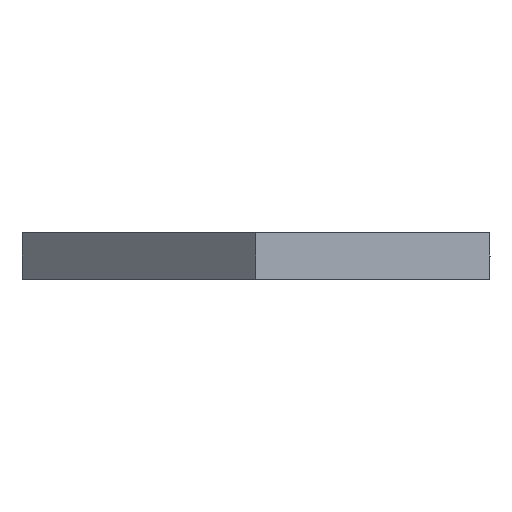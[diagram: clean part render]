
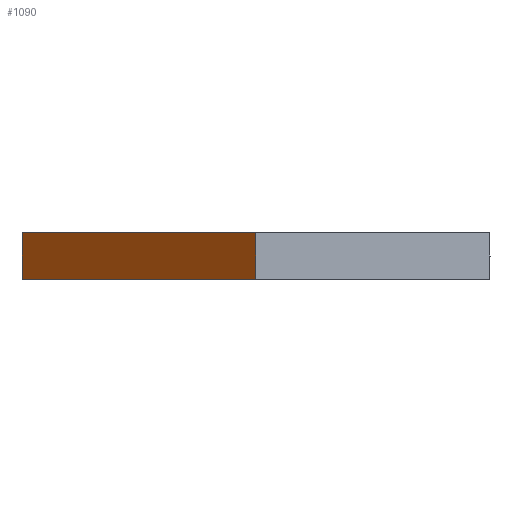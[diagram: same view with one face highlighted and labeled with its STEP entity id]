
A CAD part, left-side view. The second image highlights one B-rep face of the part: STEP entity #1090.
In plain terms, the highlighted planar face has unit normal (-0.707, 0.707, 0).
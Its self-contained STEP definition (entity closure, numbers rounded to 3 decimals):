
#216 = EDGE_LOOP ( 'NONE', ( #998, #1003, #946, #971 ) ) ;
#373 = VERTEX_POINT ( 'NONE', #1266 ) ;
#381 = VERTEX_POINT ( 'NONE', #1256 ) ;
#383 = VERTEX_POINT ( 'NONE', #1228 ) ;
#396 = VERTEX_POINT ( 'NONE', #1309 ) ;
#591 = FACE_OUTER_BOUND ( 'NONE', #216, .T. ) ;
#696 = LINE ( 'NONE', #1729, #720 ) ;
#720 = VECTOR ( 'NONE', #1731, 1000. ) ;
#749 = VECTOR ( 'NONE', #1814, 1000. ) ;
#760 = LINE ( 'NONE', #1792, #771 ) ;
#768 = LINE ( 'NONE', #1765, #778 ) ;
#771 = VECTOR ( 'NONE', #1795, 1000. ) ;
#778 = VECTOR ( 'NONE', #1766, 1000. ) ;
#782 = LINE ( 'NONE', #1813, #749 ) ;
#946 = ORIENTED_EDGE ( 'NONE', *, *, #2056, .F. ) ;
#971 = ORIENTED_EDGE ( 'NONE', *, *, #2035, .T. ) ;
#998 = ORIENTED_EDGE ( 'NONE', *, *, #2015, .T. ) ;
#1003 = ORIENTED_EDGE ( 'NONE', *, *, #2045, .F. ) ;
#1090 = ADVANCED_FACE ( 'NONE', ( #591 ), #1480, .F. ) ;
#1228 = CARTESIAN_POINT ( 'NONE',  ( -161.11, 0., 0. ) ) ;
#1256 = CARTESIAN_POINT ( 'NONE',  ( -161.11, 0., 2. ) ) ;
#1266 = CARTESIAN_POINT ( 'NONE',  ( -151.11, 10., 2. ) ) ;
#1309 = CARTESIAN_POINT ( 'NONE',  ( -151.11, 10., 0. ) ) ;
#1480 = PLANE ( 'NONE',  #2207 ) ;
#1492 = CARTESIAN_POINT ( 'NONE',  ( -161.11, 0., 2. ) ) ;
#1496 = DIRECTION ( 'NONE',  ( 0.707, -0.707, 0. ) ) ;
#1504 = DIRECTION ( 'NONE',  ( 0.707, 0.707, 0. ) ) ;
#1729 = CARTESIAN_POINT ( 'NONE',  ( -161.11, 0., 0. ) ) ;
#1731 = DIRECTION ( 'NONE',  ( -0.707, -0.707, 0. ) ) ;
#1765 = CARTESIAN_POINT ( 'NONE',  ( -151.11, 10., 2. ) ) ;
#1766 = DIRECTION ( 'NONE',  ( 0., 0., -1. ) ) ;
#1792 = CARTESIAN_POINT ( 'NONE',  ( -161.11, 0., 2. ) ) ;
#1795 = DIRECTION ( 'NONE',  ( 0., 0., -1. ) ) ;
#1813 = CARTESIAN_POINT ( 'NONE',  ( -161.11, 0., 2. ) ) ;
#1814 = DIRECTION ( 'NONE',  ( -0.707, -0.707, 0. ) ) ;
#2015 = EDGE_CURVE ( 'NONE', #396, #383, #696, .T. ) ;
#2035 = EDGE_CURVE ( 'NONE', #373, #396, #768, .T. ) ;
#2045 = EDGE_CURVE ( 'NONE', #381, #383, #760, .T. ) ;
#2056 = EDGE_CURVE ( 'NONE', #373, #381, #782, .T. ) ;
#2207 = AXIS2_PLACEMENT_3D ( 'NONE', #1492, #1496, #1504 ) ;
